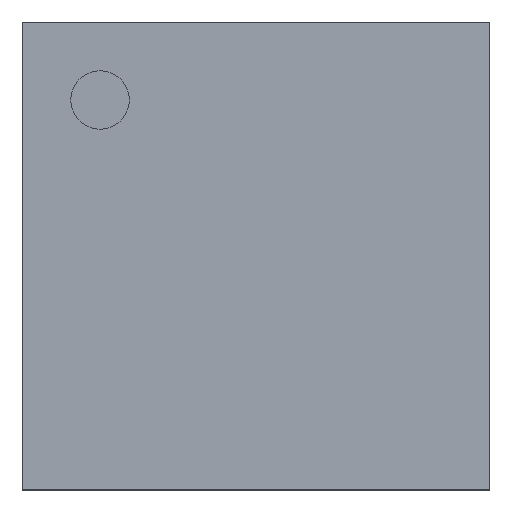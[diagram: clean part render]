
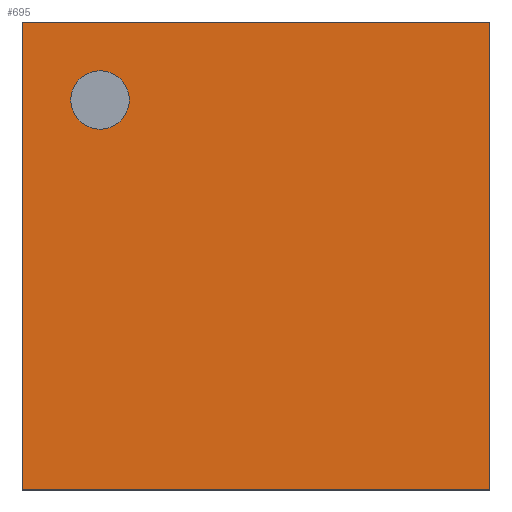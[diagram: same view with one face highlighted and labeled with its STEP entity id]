
A CAD part, top view. The second image highlights one B-rep face of the part: STEP entity #695.
In plain terms, the highlighted planar face has unit normal (0, 0, 1).
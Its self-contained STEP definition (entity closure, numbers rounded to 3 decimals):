
#506 = VERTEX_POINT('',#507);
#507 = CARTESIAN_POINT('',(0.,0.,1.1));
#514 = PLANE('',#515);
#515 = AXIS2_PLACEMENT_3D('',#516,#517,#518);
#516 = CARTESIAN_POINT('',(0.,0.,0.25));
#517 = DIRECTION('',(1.,0.,0.));
#518 = DIRECTION('',(0.,0.,1.));
#526 = PLANE('',#527);
#527 = AXIS2_PLACEMENT_3D('',#528,#529,#530);
#528 = CARTESIAN_POINT('',(0.,0.,0.25));
#529 = DIRECTION('',(0.,1.,0.));
#530 = DIRECTION('',(0.,0.,1.));
#567 = VERTEX_POINT('',#568);
#568 = CARTESIAN_POINT('',(0.,8.,1.1));
#582 = PLANE('',#583);
#583 = AXIS2_PLACEMENT_3D('',#584,#585,#586);
#584 = CARTESIAN_POINT('',(0.,8.,0.25));
#585 = DIRECTION('',(0.,1.,0.));
#586 = DIRECTION('',(0.,0.,1.));
#594 = EDGE_CURVE('',#506,#567,#595,.T.);
#595 = SURFACE_CURVE('',#596,(#600,#607),.PCURVE_S1.);
#596 = LINE('',#597,#598);
#597 = CARTESIAN_POINT('',(0.,0.,1.1));
#598 = VECTOR('',#599,1.);
#599 = DIRECTION('',(0.,1.,0.));
#600 = PCURVE('',#514,#601);
#601 = DEFINITIONAL_REPRESENTATION('',(#602),#606);
#602 = LINE('',#603,#604);
#603 = CARTESIAN_POINT('',(0.85,0.));
#604 = VECTOR('',#605,1.);
#605 = DIRECTION('',(0.,-1.));
#606 = ( GEOMETRIC_REPRESENTATION_CONTEXT(2) 
PARAMETRIC_REPRESENTATION_CONTEXT() REPRESENTATION_CONTEXT('2D SPACE',''
  ) );
#607 = PCURVE('',#608,#613);
#608 = PLANE('',#609);
#609 = AXIS2_PLACEMENT_3D('',#610,#611,#612);
#610 = CARTESIAN_POINT('',(0.,0.,1.1));
#611 = DIRECTION('',(0.,0.,1.));
#612 = DIRECTION('',(1.,0.,0.));
#613 = DEFINITIONAL_REPRESENTATION('',(#614),#618);
#614 = LINE('',#615,#616);
#615 = CARTESIAN_POINT('',(0.,0.));
#616 = VECTOR('',#617,1.);
#617 = DIRECTION('',(0.,1.));
#618 = ( GEOMETRIC_REPRESENTATION_CONTEXT(2) 
PARAMETRIC_REPRESENTATION_CONTEXT() REPRESENTATION_CONTEXT('2D SPACE',''
  ) );
#647 = EDGE_CURVE('',#506,#648,#650,.T.);
#648 = VERTEX_POINT('',#649);
#649 = CARTESIAN_POINT('',(8.,0.,1.1));
#650 = SURFACE_CURVE('',#651,(#655,#662),.PCURVE_S1.);
#651 = LINE('',#652,#653);
#652 = CARTESIAN_POINT('',(0.,0.,1.1));
#653 = VECTOR('',#654,1.);
#654 = DIRECTION('',(1.,0.,0.));
#655 = PCURVE('',#526,#656);
#656 = DEFINITIONAL_REPRESENTATION('',(#657),#661);
#657 = LINE('',#658,#659);
#658 = CARTESIAN_POINT('',(0.85,0.));
#659 = VECTOR('',#660,1.);
#660 = DIRECTION('',(0.,1.));
#661 = ( GEOMETRIC_REPRESENTATION_CONTEXT(2) 
PARAMETRIC_REPRESENTATION_CONTEXT() REPRESENTATION_CONTEXT('2D SPACE',''
  ) );
#662 = PCURVE('',#608,#663);
#663 = DEFINITIONAL_REPRESENTATION('',(#664),#668);
#664 = LINE('',#665,#666);
#665 = CARTESIAN_POINT('',(0.,0.));
#666 = VECTOR('',#667,1.);
#667 = DIRECTION('',(1.,0.));
#668 = ( GEOMETRIC_REPRESENTATION_CONTEXT(2) 
PARAMETRIC_REPRESENTATION_CONTEXT() REPRESENTATION_CONTEXT('2D SPACE',''
  ) );
#684 = PLANE('',#685);
#685 = AXIS2_PLACEMENT_3D('',#686,#687,#688);
#686 = CARTESIAN_POINT('',(8.,0.,0.25));
#687 = DIRECTION('',(1.,0.,0.));
#688 = DIRECTION('',(0.,0.,1.));
#695 = ADVANCED_FACE('',(#696,#744),#608,.T.);
#696 = FACE_BOUND('',#697,.T.);
#697 = EDGE_LOOP('',(#698,#699,#700,#723));
#698 = ORIENTED_EDGE('',*,*,#594,.F.);
#699 = ORIENTED_EDGE('',*,*,#647,.T.);
#700 = ORIENTED_EDGE('',*,*,#701,.T.);
#701 = EDGE_CURVE('',#648,#702,#704,.T.);
#702 = VERTEX_POINT('',#703);
#703 = CARTESIAN_POINT('',(8.,8.,1.1));
#704 = SURFACE_CURVE('',#705,(#709,#716),.PCURVE_S1.);
#705 = LINE('',#706,#707);
#706 = CARTESIAN_POINT('',(8.,0.,1.1));
#707 = VECTOR('',#708,1.);
#708 = DIRECTION('',(0.,1.,0.));
#709 = PCURVE('',#608,#710);
#710 = DEFINITIONAL_REPRESENTATION('',(#711),#715);
#711 = LINE('',#712,#713);
#712 = CARTESIAN_POINT('',(8.,0.));
#713 = VECTOR('',#714,1.);
#714 = DIRECTION('',(0.,1.));
#715 = ( GEOMETRIC_REPRESENTATION_CONTEXT(2) 
PARAMETRIC_REPRESENTATION_CONTEXT() REPRESENTATION_CONTEXT('2D SPACE',''
  ) );
#716 = PCURVE('',#684,#717);
#717 = DEFINITIONAL_REPRESENTATION('',(#718),#722);
#718 = LINE('',#719,#720);
#719 = CARTESIAN_POINT('',(0.85,0.));
#720 = VECTOR('',#721,1.);
#721 = DIRECTION('',(0.,-1.));
#722 = ( GEOMETRIC_REPRESENTATION_CONTEXT(2) 
PARAMETRIC_REPRESENTATION_CONTEXT() REPRESENTATION_CONTEXT('2D SPACE',''
  ) );
#723 = ORIENTED_EDGE('',*,*,#724,.F.);
#724 = EDGE_CURVE('',#567,#702,#725,.T.);
#725 = SURFACE_CURVE('',#726,(#730,#737),.PCURVE_S1.);
#726 = LINE('',#727,#728);
#727 = CARTESIAN_POINT('',(0.,8.,1.1));
#728 = VECTOR('',#729,1.);
#729 = DIRECTION('',(1.,0.,0.));
#730 = PCURVE('',#608,#731);
#731 = DEFINITIONAL_REPRESENTATION('',(#732),#736);
#732 = LINE('',#733,#734);
#733 = CARTESIAN_POINT('',(0.,8.));
#734 = VECTOR('',#735,1.);
#735 = DIRECTION('',(1.,0.));
#736 = ( GEOMETRIC_REPRESENTATION_CONTEXT(2) 
PARAMETRIC_REPRESENTATION_CONTEXT() REPRESENTATION_CONTEXT('2D SPACE',''
  ) );
#737 = PCURVE('',#582,#738);
#738 = DEFINITIONAL_REPRESENTATION('',(#739),#743);
#739 = LINE('',#740,#741);
#740 = CARTESIAN_POINT('',(0.85,0.));
#741 = VECTOR('',#742,1.);
#742 = DIRECTION('',(0.,1.));
#743 = ( GEOMETRIC_REPRESENTATION_CONTEXT(2) 
PARAMETRIC_REPRESENTATION_CONTEXT() REPRESENTATION_CONTEXT('2D SPACE',''
  ) );
#744 = FACE_BOUND('',#745,.T.);
#745 = EDGE_LOOP('',(#746));
#746 = ORIENTED_EDGE('',*,*,#747,.F.);
#747 = EDGE_CURVE('',#748,#748,#750,.T.);
#748 = VERTEX_POINT('',#749);
#749 = CARTESIAN_POINT('',(1.833,6.667,1.1));
#750 = SURFACE_CURVE('',#751,(#756,#763),.PCURVE_S1.);
#751 = CIRCLE('',#752,0.5);
#752 = AXIS2_PLACEMENT_3D('',#753,#754,#755);
#753 = CARTESIAN_POINT('',(1.333,6.667,1.1));
#754 = DIRECTION('',(0.,0.,1.));
#755 = DIRECTION('',(1.,0.,0.));
#756 = PCURVE('',#608,#757);
#757 = DEFINITIONAL_REPRESENTATION('',(#758),#762);
#758 = CIRCLE('',#759,0.5);
#759 = AXIS2_PLACEMENT_2D('',#760,#761);
#760 = CARTESIAN_POINT('',(1.333,6.667));
#761 = DIRECTION('',(1.,0.));
#762 = ( GEOMETRIC_REPRESENTATION_CONTEXT(2) 
PARAMETRIC_REPRESENTATION_CONTEXT() REPRESENTATION_CONTEXT('2D SPACE',''
  ) );
#763 = PCURVE('',#764,#769);
#764 = CYLINDRICAL_SURFACE('',#765,0.5);
#765 = AXIS2_PLACEMENT_3D('',#766,#767,#768);
#766 = CARTESIAN_POINT('',(1.333,6.667,1.));
#767 = DIRECTION('',(0.,0.,1.));
#768 = DIRECTION('',(1.,0.,0.));
#769 = DEFINITIONAL_REPRESENTATION('',(#770),#774);
#770 = LINE('',#771,#772);
#771 = CARTESIAN_POINT('',(0.,0.1));
#772 = VECTOR('',#773,1.);
#773 = DIRECTION('',(1.,0.));
#774 = ( GEOMETRIC_REPRESENTATION_CONTEXT(2) 
PARAMETRIC_REPRESENTATION_CONTEXT() REPRESENTATION_CONTEXT('2D SPACE',''
  ) );
